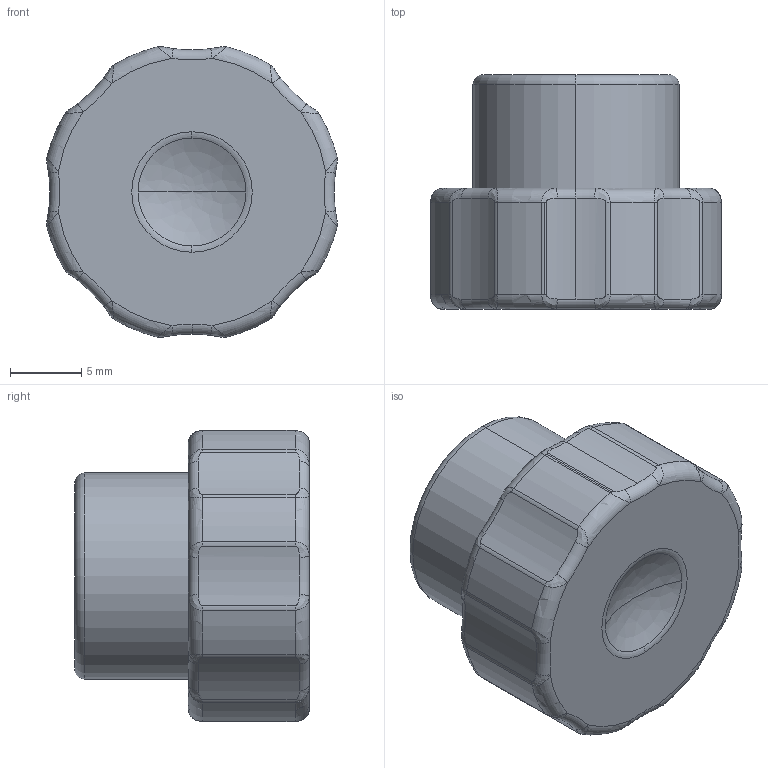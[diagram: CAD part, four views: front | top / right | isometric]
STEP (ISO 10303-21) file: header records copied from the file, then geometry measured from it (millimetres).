
FILE_DESCRIPTION (( 'STEP AP214' ), '1' );
FILE_NAME ('D21M5.STEP', '2020-06-30T11:26:15', ( '' ), ( '' ), 'SwSTEP 2.0', 'SolidWorks 2018', '' );
FILE_SCHEMA (( 'AUTOMOTIVE_DESIGN' ));
Length unit declared in the file: millimetre
Products named in the file (3): D21M5 Part 2; D21M5 Part 1; D21M5
Assembly tree (2 placements, depth 2):
  D21M5
    D21M5 Part 1
    D21M5 Part 2
Bounding box: 20.47 x 16.5 x 20.48 mm (x, y, z)
Volume: 3522.6 mm3; surface area: 2874.5 mm2
Topology: 2 solids, 2 shells, 155 faces, 363 edges, 217 vertices
Faces by surface type: cylinder 54, torus 38, bspline 37, plane 17, cone 9
Entity records: 6758 total; most frequent: CARTESIAN_POINT 3338, ORIENTED_EDGE 722, DIRECTION 691, EDGE_CURVE 361, AXIS2_PLACEMENT_3D 311, VERTEX_POINT 217, CIRCLE 188, EDGE_LOOP 164
